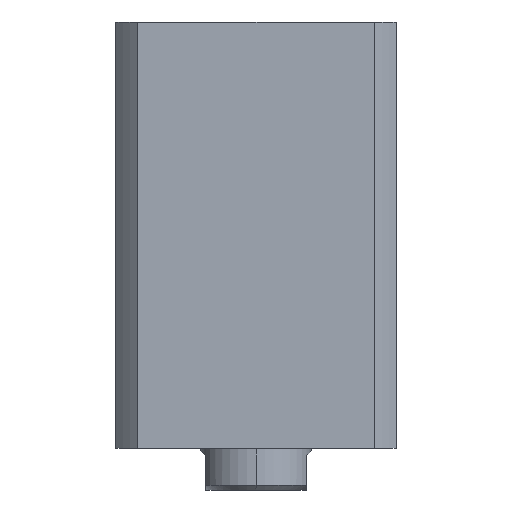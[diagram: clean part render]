
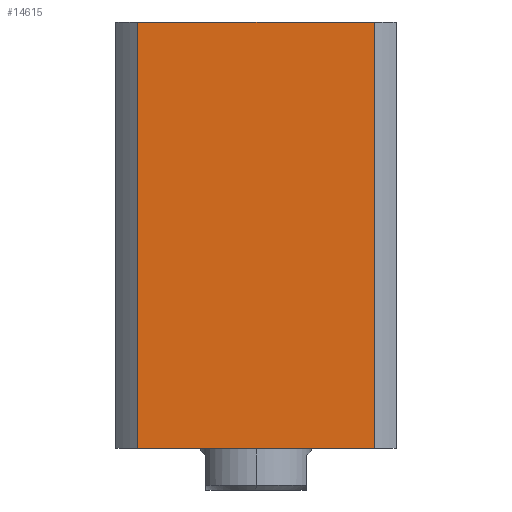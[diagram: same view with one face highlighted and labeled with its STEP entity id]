
A CAD part, front view. The second image highlights one B-rep face of the part: STEP entity #14615.
In plain terms, the highlighted planar face has unit normal (0, -1, 0) as drawn and (-1, 0, 0) by its records, which use the part's own axes.
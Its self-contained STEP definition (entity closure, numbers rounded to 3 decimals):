
#900 = VERTEX_POINT ( 'NONE', #4247 ) ;
#1132 = CARTESIAN_POINT ( 'NONE',  ( -57., 47.971, 0. ) ) ;
#1190 = DIRECTION ( 'NONE',  ( 0., 1., 0. ) ) ;
#1394 = ORIENTED_EDGE ( 'NONE', *, *, #4225, .F. ) ;
#2263 = LINE ( 'NONE', #3425, #13685 ) ;
#3178 = EDGE_LOOP ( 'NONE', ( #9668, #12980, #1394, #5078 ) ) ;
#3425 = CARTESIAN_POINT ( 'NONE',  ( -57., 57., 173. ) ) ;
#3503 = PLANE ( 'NONE',  #6485 ) ;
#3583 = DIRECTION ( 'NONE',  ( 0., -1., 0. ) ) ;
#3978 = FACE_OUTER_BOUND ( 'NONE', #3178, .T. ) ;
#4026 = VERTEX_POINT ( 'NONE', #11443 ) ;
#4225 = EDGE_CURVE ( 'NONE', #4026, #8247, #7442, .T. ) ;
#4247 = CARTESIAN_POINT ( 'NONE',  ( -57., 47.971, 173. ) ) ;
#4757 = CARTESIAN_POINT ( 'NONE',  ( -57., -47.971, 0. ) ) ;
#4773 = CARTESIAN_POINT ( 'NONE',  ( -57., 57., 0. ) ) ;
#4872 = LINE ( 'NONE', #15252, #7604 ) ;
#5078 = ORIENTED_EDGE ( 'NONE', *, *, #7651, .F. ) ;
#5258 = LINE ( 'NONE', #4773, #14312 ) ;
#6216 = VERTEX_POINT ( 'NONE', #1132 ) ;
#6485 = AXIS2_PLACEMENT_3D ( 'NONE', #11740, #8213, #1190 ) ;
#7051 = DIRECTION ( 'NONE',  ( 0., 0., -1. ) ) ;
#7442 = LINE ( 'NONE', #14155, #7791 ) ;
#7604 = VECTOR ( 'NONE', #8152, 1000. ) ;
#7651 = EDGE_CURVE ( 'NONE', #900, #4026, #2263, .T. ) ;
#7791 = VECTOR ( 'NONE', #7051, 1000. ) ;
#8152 = DIRECTION ( 'NONE',  ( 0., 0., 1. ) ) ;
#8213 = DIRECTION ( 'NONE',  ( 1., 0., 0. ) ) ;
#8247 = VERTEX_POINT ( 'NONE', #4757 ) ;
#8841 = EDGE_CURVE ( 'NONE', #6216, #900, #4872, .T. ) ;
#9668 = ORIENTED_EDGE ( 'NONE', *, *, #8841, .F. ) ;
#10453 = DIRECTION ( 'NONE',  ( 0., -1., 0. ) ) ;
#11443 = CARTESIAN_POINT ( 'NONE',  ( -57., -47.971, 173. ) ) ;
#11740 = CARTESIAN_POINT ( 'NONE',  ( -57., 57., 173. ) ) ;
#12980 = ORIENTED_EDGE ( 'NONE', *, *, #13316, .T. ) ;
#13316 = EDGE_CURVE ( 'NONE', #6216, #8247, #5258, .T. ) ;
#13685 = VECTOR ( 'NONE', #10453, 1000. ) ;
#14155 = CARTESIAN_POINT ( 'NONE',  ( -57., -47.971, -127. ) ) ;
#14312 = VECTOR ( 'NONE', #3583, 1000. ) ;
#14615 = ADVANCED_FACE ( 'NONE', ( #3978 ), #3503, .F. ) ;
#15252 = CARTESIAN_POINT ( 'NONE',  ( -57., 47.971, -127. ) ) ;
